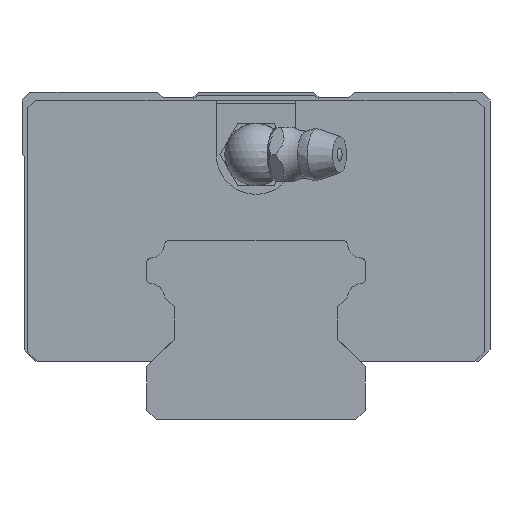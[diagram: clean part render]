
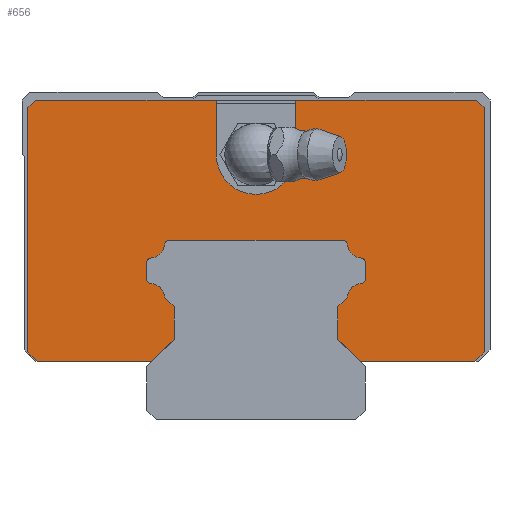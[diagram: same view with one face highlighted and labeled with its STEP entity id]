
A CAD part, front view. The second image highlights one B-rep face of the part: STEP entity #656.
In plain terms, the highlighted planar face has unit normal (0, -1, 0).
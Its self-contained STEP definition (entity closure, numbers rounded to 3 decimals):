
#537=CIRCLE('',#3548,5.1);
#538=CIRCLE('',#3549,2.);
#539=CIRCLE('',#3550,0.5);
#540=CIRCLE('',#3551,0.5);
#541=CIRCLE('',#3552,2.);
#542=CIRCLE('',#3553,0.5);
#543=CIRCLE('',#3554,0.5);
#544=CIRCLE('',#3555,2.);
#545=CIRCLE('',#3556,0.5);
#546=CIRCLE('',#3557,0.5);
#547=CIRCLE('',#3558,2.);
#656=ADVANCED_FACE('',(#960),#843,.F.);
#843=PLANE('',#3559);
#960=FACE_OUTER_BOUND('',#1085,.T.);
#1085=EDGE_LOOP('',(#1341,#1342,#1343,#1344,#1345,#1346,#1347,#1348,#1349,
#1350,#1351,#1352,#1353,#1354,#1355,#1356,#1357,#1358,#1359,#1360,#1361,
#1362,#1363,#1364,#1365,#1366,#1367,#1368,#1369,#1370,#1371,#1372));
#1341=ORIENTED_EDGE('',*,*,#2551,.F.);
#1342=ORIENTED_EDGE('',*,*,#2552,.T.);
#1343=ORIENTED_EDGE('',*,*,#2553,.T.);
#1344=ORIENTED_EDGE('',*,*,#2554,.T.);
#1345=ORIENTED_EDGE('',*,*,#2555,.T.);
#1346=ORIENTED_EDGE('',*,*,#2556,.T.);
#1347=ORIENTED_EDGE('',*,*,#2557,.F.);
#1348=ORIENTED_EDGE('',*,*,#2558,.F.);
#1349=ORIENTED_EDGE('',*,*,#2559,.F.);
#1350=ORIENTED_EDGE('',*,*,#2560,.T.);
#1351=ORIENTED_EDGE('',*,*,#2561,.T.);
#1352=ORIENTED_EDGE('',*,*,#2562,.T.);
#1353=ORIENTED_EDGE('',*,*,#2563,.T.);
#1354=ORIENTED_EDGE('',*,*,#2564,.T.);
#1355=ORIENTED_EDGE('',*,*,#2565,.F.);
#1356=ORIENTED_EDGE('',*,*,#2566,.F.);
#1357=ORIENTED_EDGE('',*,*,#2567,.F.);
#1358=ORIENTED_EDGE('',*,*,#2568,.F.);
#1359=ORIENTED_EDGE('',*,*,#2569,.F.);
#1360=ORIENTED_EDGE('',*,*,#2570,.F.);
#1361=ORIENTED_EDGE('',*,*,#2571,.F.);
#1362=ORIENTED_EDGE('',*,*,#2572,.F.);
#1363=ORIENTED_EDGE('',*,*,#2573,.F.);
#1364=ORIENTED_EDGE('',*,*,#2574,.F.);
#1365=ORIENTED_EDGE('',*,*,#2575,.F.);
#1366=ORIENTED_EDGE('',*,*,#2576,.F.);
#1367=ORIENTED_EDGE('',*,*,#2577,.F.);
#1368=ORIENTED_EDGE('',*,*,#2578,.F.);
#1369=ORIENTED_EDGE('',*,*,#2579,.F.);
#1370=ORIENTED_EDGE('',*,*,#2580,.F.);
#1371=ORIENTED_EDGE('',*,*,#2581,.F.);
#1372=ORIENTED_EDGE('',*,*,#2582,.F.);
#2227=VERTEX_POINT('',#4753);
#2228=VERTEX_POINT('',#4754);
#2229=VERTEX_POINT('',#4756);
#2230=VERTEX_POINT('',#4758);
#2231=VERTEX_POINT('',#4760);
#2232=VERTEX_POINT('',#4762);
#2233=VERTEX_POINT('',#4764);
#2234=VERTEX_POINT('',#4766);
#2235=VERTEX_POINT('',#4768);
#2236=VERTEX_POINT('',#4770);
#2237=VERTEX_POINT('',#4772);
#2238=VERTEX_POINT('',#4774);
#2239=VERTEX_POINT('',#4776);
#2240=VERTEX_POINT('',#4778);
#2241=VERTEX_POINT('',#4780);
#2242=VERTEX_POINT('',#4782);
#2243=VERTEX_POINT('',#4784);
#2244=VERTEX_POINT('',#4786);
#2245=VERTEX_POINT('',#4788);
#2246=VERTEX_POINT('',#4790);
#2247=VERTEX_POINT('',#4792);
#2248=VERTEX_POINT('',#4794);
#2249=VERTEX_POINT('',#4796);
#2250=VERTEX_POINT('',#4798);
#2251=VERTEX_POINT('',#4800);
#2252=VERTEX_POINT('',#4802);
#2253=VERTEX_POINT('',#4804);
#2254=VERTEX_POINT('',#4806);
#2255=VERTEX_POINT('',#4808);
#2256=VERTEX_POINT('',#4810);
#2257=VERTEX_POINT('',#4812);
#2258=VERTEX_POINT('',#4814);
#2551=EDGE_CURVE('',#2227,#2228,#2994,.T.);
#2552=EDGE_CURVE('',#2227,#2229,#2995,.T.);
#2553=EDGE_CURVE('',#2229,#2230,#2996,.T.);
#2554=EDGE_CURVE('',#2230,#2231,#2997,.T.);
#2555=EDGE_CURVE('',#2231,#2232,#2998,.T.);
#2556=EDGE_CURVE('',#2232,#2233,#2999,.T.);
#2557=EDGE_CURVE('',#2234,#2233,#3000,.T.);
#2558=EDGE_CURVE('',#2235,#2234,#537,.T.);
#2559=EDGE_CURVE('',#2236,#2235,#3001,.T.);
#2560=EDGE_CURVE('',#2236,#2237,#3002,.T.);
#2561=EDGE_CURVE('',#2237,#2238,#3003,.T.);
#2562=EDGE_CURVE('',#2238,#2239,#3004,.T.);
#2563=EDGE_CURVE('',#2239,#2240,#3005,.T.);
#2564=EDGE_CURVE('',#2240,#2241,#3006,.T.);
#2565=EDGE_CURVE('',#2242,#2241,#3007,.T.);
#2566=EDGE_CURVE('',#2243,#2242,#3008,.T.);
#2567=EDGE_CURVE('',#2244,#2243,#3009,.T.);
#2568=EDGE_CURVE('',#2245,#2244,#538,.T.);
#2569=EDGE_CURVE('',#2246,#2245,#539,.T.);
#2570=EDGE_CURVE('',#2247,#2246,#3010,.T.);
#2571=EDGE_CURVE('',#2248,#2247,#540,.T.);
#2572=EDGE_CURVE('',#2249,#2248,#541,.T.);
#2573=EDGE_CURVE('',#2250,#2249,#542,.T.);
#2574=EDGE_CURVE('',#2251,#2250,#3011,.T.);
#2575=EDGE_CURVE('',#2252,#2251,#543,.T.);
#2576=EDGE_CURVE('',#2253,#2252,#544,.T.);
#2577=EDGE_CURVE('',#2254,#2253,#545,.T.);
#2578=EDGE_CURVE('',#2255,#2254,#3012,.T.);
#2579=EDGE_CURVE('',#2256,#2255,#546,.T.);
#2580=EDGE_CURVE('',#2257,#2256,#547,.T.);
#2581=EDGE_CURVE('',#2258,#2257,#3013,.T.);
#2582=EDGE_CURVE('',#2228,#2258,#3014,.T.);
#2994=LINE('',#4752,#3272);
#2995=LINE('',#4755,#3273);
#2996=LINE('',#4757,#3274);
#2997=LINE('',#4759,#3275);
#2998=LINE('',#4761,#3276);
#2999=LINE('',#4763,#3277);
#3000=LINE('',#4765,#3278);
#3001=LINE('',#4769,#3279);
#3002=LINE('',#4771,#3280);
#3003=LINE('',#4773,#3281);
#3004=LINE('',#4775,#3282);
#3005=LINE('',#4777,#3283);
#3006=LINE('',#4779,#3284);
#3007=LINE('',#4781,#3285);
#3008=LINE('',#4783,#3286);
#3009=LINE('',#4785,#3287);
#3010=LINE('',#4791,#3288);
#3011=LINE('',#4799,#3289);
#3012=LINE('',#4807,#3290);
#3013=LINE('',#4813,#3291);
#3014=LINE('',#4815,#3292);
#3272=VECTOR('',#3860,1.);
#3273=VECTOR('',#3861,1.);
#3274=VECTOR('',#3862,1.);
#3275=VECTOR('',#3863,1.);
#3276=VECTOR('',#3864,1.);
#3277=VECTOR('',#3865,1.);
#3278=VECTOR('',#3866,1.);
#3279=VECTOR('',#3869,1.);
#3280=VECTOR('',#3870,1.);
#3281=VECTOR('',#3871,1.);
#3282=VECTOR('',#3872,1.);
#3283=VECTOR('',#3873,1.);
#3284=VECTOR('',#3874,1.);
#3285=VECTOR('',#3875,1.);
#3286=VECTOR('',#3876,1.);
#3287=VECTOR('',#3877,1.);
#3288=VECTOR('',#3882,1.);
#3289=VECTOR('',#3889,1.);
#3290=VECTOR('',#3896,1.);
#3291=VECTOR('',#3901,1.);
#3292=VECTOR('',#3902,1.);
#3548=AXIS2_PLACEMENT_3D('',#4767,#3867,#3868);
#3549=AXIS2_PLACEMENT_3D('',#4787,#3878,#3879);
#3550=AXIS2_PLACEMENT_3D('',#4789,#3880,#3881);
#3551=AXIS2_PLACEMENT_3D('',#4793,#3883,#3884);
#3552=AXIS2_PLACEMENT_3D('',#4795,#3885,#3886);
#3553=AXIS2_PLACEMENT_3D('',#4797,#3887,#3888);
#3554=AXIS2_PLACEMENT_3D('',#4801,#3890,#3891);
#3555=AXIS2_PLACEMENT_3D('',#4803,#3892,#3893);
#3556=AXIS2_PLACEMENT_3D('',#4805,#3894,#3895);
#3557=AXIS2_PLACEMENT_3D('',#4809,#3897,#3898);
#3558=AXIS2_PLACEMENT_3D('',#4811,#3899,#3900);
#3559=AXIS2_PLACEMENT_3D('',#4816,#3903,#3904);
#3860=DIRECTION('',(-0.707,0.,0.707));
#3861=DIRECTION('',(1.,0.,0.));
#3862=DIRECTION('',(0.707,0.,0.707));
#3863=DIRECTION('',(0.,0.,1.));
#3864=DIRECTION('',(-0.707,0.,0.707));
#3865=DIRECTION('',(-1.,0.,0.));
#3866=DIRECTION('',(0.,0.,1.));
#3867=DIRECTION('',(0.,-1.,0.));
#3868=DIRECTION('',(-1.,0.,0.));
#3869=DIRECTION('',(0.,0.,-1.));
#3870=DIRECTION('',(-1.,0.,0.));
#3871=DIRECTION('',(-0.707,0.,-0.707));
#3872=DIRECTION('',(0.,0.,-1.));
#3873=DIRECTION('',(0.707,0.,-0.707));
#3874=DIRECTION('',(1.,0.,0.));
#3875=DIRECTION('',(-0.707,0.,-0.707));
#3876=DIRECTION('',(0.,0.,-1.));
#3877=DIRECTION('',(0.707,0.,-0.707));
#3878=DIRECTION('',(0.,1.,0.));
#3879=DIRECTION('',(0.,0.,1.));
#3880=DIRECTION('',(0.,-1.,0.));
#3881=DIRECTION('',(0.,0.,1.));
#3882=DIRECTION('',(0.,0.,-1.));
#3883=DIRECTION('',(0.,-1.,0.));
#3884=DIRECTION('',(0.,0.,1.));
#3885=DIRECTION('',(0.,1.,0.));
#3886=DIRECTION('',(0.,0.,1.));
#3887=DIRECTION('',(0.,-1.,0.));
#3888=DIRECTION('',(0.,0.,1.));
#3889=DIRECTION('',(-1.,0.,0.));
#3890=DIRECTION('',(0.,-1.,0.));
#3891=DIRECTION('',(0.,0.,1.));
#3892=DIRECTION('',(0.,1.,0.));
#3893=DIRECTION('',(0.,0.,1.));
#3894=DIRECTION('',(0.,-1.,0.));
#3895=DIRECTION('',(0.,0.,1.));
#3896=DIRECTION('',(0.,0.,1.));
#3897=DIRECTION('',(0.,-1.,0.));
#3898=DIRECTION('',(0.,0.,1.));
#3899=DIRECTION('',(0.,1.,0.));
#3900=DIRECTION('',(0.,0.,1.));
#3901=DIRECTION('',(0.707,0.,0.707));
#3902=DIRECTION('',(0.,0.,1.));
#3903=DIRECTION('',(0.,1.,0.));
#3904=DIRECTION('',(0.,0.,1.));
#4752=CARTESIAN_POINT('',(20.675,-26.3,0.125));
#4753=CARTESIAN_POINT('',(13.3,-26.3,7.5));
#4754=CARTESIAN_POINT('',(10.5,-26.3,10.3));
#4755=CARTESIAN_POINT('',(-28.05,-26.3,7.5));
#4756=CARTESIAN_POINT('',(28.05,-26.3,7.5));
#4757=CARTESIAN_POINT('',(28.05,-26.3,7.5));
#4758=CARTESIAN_POINT('',(29.25,-26.3,8.7));
#4759=CARTESIAN_POINT('',(29.25,-26.3,8.7));
#4760=CARTESIAN_POINT('',(29.25,-26.3,40.));
#4761=CARTESIAN_POINT('',(29.25,-26.3,40.));
#4762=CARTESIAN_POINT('',(28.25,-26.3,41.));
#4763=CARTESIAN_POINT('',(28.25,-26.3,41.));
#4764=CARTESIAN_POINT('',(5.1,-26.3,41.));
#4765=CARTESIAN_POINT('',(5.1,-26.3,34.));
#4766=CARTESIAN_POINT('',(5.1,-26.3,34.));
#4767=CARTESIAN_POINT('',(0.,-26.3,34.));
#4768=CARTESIAN_POINT('',(-5.1,-26.3,34.));
#4769=CARTESIAN_POINT('',(-5.1,-26.3,41.));
#4770=CARTESIAN_POINT('',(-5.1,-26.3,41.));
#4771=CARTESIAN_POINT('',(28.25,-26.3,41.));
#4772=CARTESIAN_POINT('',(-28.25,-26.3,41.));
#4773=CARTESIAN_POINT('',(-28.25,-26.3,41.));
#4774=CARTESIAN_POINT('',(-29.25,-26.3,40.));
#4775=CARTESIAN_POINT('',(-29.25,-26.3,40.));
#4776=CARTESIAN_POINT('',(-29.25,-26.3,8.7));
#4777=CARTESIAN_POINT('',(-29.25,-26.3,8.7));
#4778=CARTESIAN_POINT('',(-28.05,-26.3,7.5));
#4779=CARTESIAN_POINT('',(-28.05,-26.3,7.5));
#4780=CARTESIAN_POINT('',(-13.3,-26.3,7.5));
#4781=CARTESIAN_POINT('',(24.225,-26.3,45.025));
#4782=CARTESIAN_POINT('',(-10.5,-26.3,10.3));
#4783=CARTESIAN_POINT('',(-10.5,-26.3,24.35));
#4784=CARTESIAN_POINT('',(-10.5,-26.3,14.502));
#4785=CARTESIAN_POINT('',(12.276,-26.3,-8.274));
#4786=CARTESIAN_POINT('',(-11.701,-26.3,15.703));
#4787=CARTESIAN_POINT('',(-13.691,-26.3,15.502));
#4788=CARTESIAN_POINT('',(-13.536,-26.3,17.496));
#4789=CARTESIAN_POINT('',(-13.5,-26.3,17.995));
#4790=CARTESIAN_POINT('',(-14.,-26.3,17.995));
#4791=CARTESIAN_POINT('',(-14.,-26.3,24.35));
#4792=CARTESIAN_POINT('',(-14.,-26.3,20.226));
#4793=CARTESIAN_POINT('',(-13.5,-26.3,20.226));
#4794=CARTESIAN_POINT('',(-13.536,-26.3,20.725));
#4795=CARTESIAN_POINT('',(-13.691,-26.3,22.719));
#4796=CARTESIAN_POINT('',(-11.699,-26.3,22.544));
#4797=CARTESIAN_POINT('',(-11.201,-26.3,22.5));
#4798=CARTESIAN_POINT('',(-11.201,-26.3,23.));
#4799=CARTESIAN_POINT('',(44.9,-26.3,23.));
#4800=CARTESIAN_POINT('',(11.201,-26.3,23.));
#4801=CARTESIAN_POINT('',(11.201,-26.3,22.5));
#4802=CARTESIAN_POINT('',(11.699,-26.3,22.544));
#4803=CARTESIAN_POINT('',(13.691,-26.3,22.719));
#4804=CARTESIAN_POINT('',(13.536,-26.3,20.725));
#4805=CARTESIAN_POINT('',(13.5,-26.3,20.226));
#4806=CARTESIAN_POINT('',(14.,-26.3,20.226));
#4807=CARTESIAN_POINT('',(14.,-26.3,24.35));
#4808=CARTESIAN_POINT('',(14.,-26.3,17.995));
#4809=CARTESIAN_POINT('',(13.5,-26.3,17.995));
#4810=CARTESIAN_POINT('',(13.536,-26.3,17.496));
#4811=CARTESIAN_POINT('',(13.691,-26.3,15.502));
#4812=CARTESIAN_POINT('',(11.701,-26.3,15.703));
#4813=CARTESIAN_POINT('',(32.624,-26.3,36.626));
#4814=CARTESIAN_POINT('',(10.5,-26.3,14.502));
#4815=CARTESIAN_POINT('',(10.5,-26.3,24.35));
#4816=CARTESIAN_POINT('',(44.9,-26.3,24.35));
